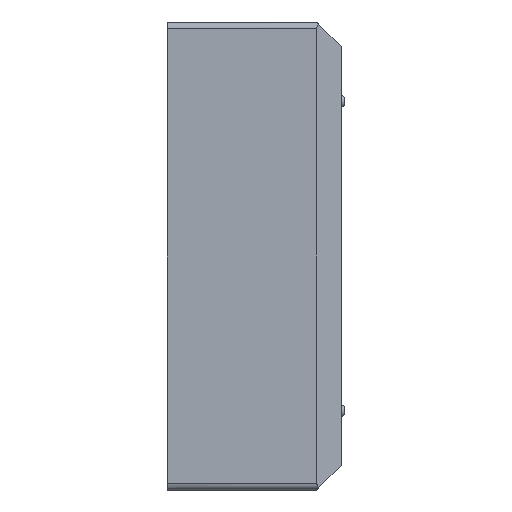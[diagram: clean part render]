
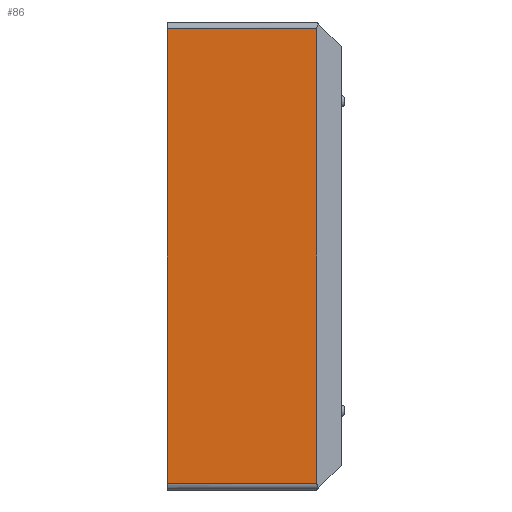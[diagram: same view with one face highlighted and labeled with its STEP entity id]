
A CAD part, left-side view. The second image highlights one B-rep face of the part: STEP entity #86.
In plain terms, the highlighted planar face has unit normal (-1, 0, 0).
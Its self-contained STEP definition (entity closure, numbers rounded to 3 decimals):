
#86 = ADVANCED_FACE ( 'NONE', ( #529 ), #1804, .T. ) ;
#186 = EDGE_CURVE ( 'NONE', #533, #846, #2452, .T. ) ;
#529 = FACE_OUTER_BOUND ( 'NONE', #3113, .T. ) ;
#533 = VERTEX_POINT ( 'NONE', #2873 ) ;
#563 = ORIENTED_EDGE ( 'NONE', *, *, #759, .F. ) ;
#696 = VECTOR ( 'NONE', #1971, 1000. ) ;
#708 = EDGE_CURVE ( 'NONE', #2003, #2789, #1101, .T. ) ;
#719 = EDGE_CURVE ( 'NONE', #2003, #533, #5209, .T. ) ;
#759 = EDGE_CURVE ( 'NONE', #2789, #846, #2875, .T. ) ;
#817 = CARTESIAN_POINT ( 'NONE',  ( -62.75, -21.5, -32.625 ) ) ;
#846 = VERTEX_POINT ( 'NONE', #1637 ) ;
#982 = DIRECTION ( 'NONE',  ( -1., 0., 0. ) ) ;
#1101 = LINE ( 'NONE', #2136, #4183 ) ;
#1181 = ORIENTED_EDGE ( 'NONE', *, *, #708, .F. ) ;
#1637 = CARTESIAN_POINT ( 'NONE',  ( -62.75, 0., 32.625 ) ) ;
#1804 = PLANE ( 'NONE',  #5034 ) ;
#1968 = ORIENTED_EDGE ( 'NONE', *, *, #719, .T. ) ;
#1971 = DIRECTION ( 'NONE',  ( 0., 0., 1. ) ) ;
#2003 = VERTEX_POINT ( 'NONE', #817 ) ;
#2018 = CARTESIAN_POINT ( 'NONE',  ( -62.75, 0., -32.625 ) ) ;
#2066 = VECTOR ( 'NONE', #2112, 1000. ) ;
#2112 = DIRECTION ( 'NONE',  ( 0., 0., 1. ) ) ;
#2136 = CARTESIAN_POINT ( 'NONE',  ( -62.75, -25., -32.625 ) ) ;
#2142 = DIRECTION ( 'NONE',  ( 0., 1., 0. ) ) ;
#2163 = CARTESIAN_POINT ( 'NONE',  ( -62.75, -21.5, -32.625 ) ) ;
#2348 = ORIENTED_EDGE ( 'NONE', *, *, #186, .T. ) ;
#2452 = LINE ( 'NONE', #4848, #3466 ) ;
#2789 = VERTEX_POINT ( 'NONE', #4234 ) ;
#2873 = CARTESIAN_POINT ( 'NONE',  ( -62.75, -21.5, 32.625 ) ) ;
#2875 = LINE ( 'NONE', #2018, #696 ) ;
#3113 = EDGE_LOOP ( 'NONE', ( #1181, #1968, #2348, #563 ) ) ;
#3466 = VECTOR ( 'NONE', #4345, 1000. ) ;
#4045 = DIRECTION ( 'NONE',  ( 0., 0., 1. ) ) ;
#4183 = VECTOR ( 'NONE', #2142, 1000. ) ;
#4234 = CARTESIAN_POINT ( 'NONE',  ( -62.75, 0., -32.625 ) ) ;
#4345 = DIRECTION ( 'NONE',  ( 0., 1., 0. ) ) ;
#4848 = CARTESIAN_POINT ( 'NONE',  ( -62.75, -25., 32.625 ) ) ;
#5034 = AXIS2_PLACEMENT_3D ( 'NONE', #5048, #982, #4045 ) ;
#5048 = CARTESIAN_POINT ( 'NONE',  ( -62.75, -25., -32.625 ) ) ;
#5209 = LINE ( 'NONE', #2163, #2066 ) ;
